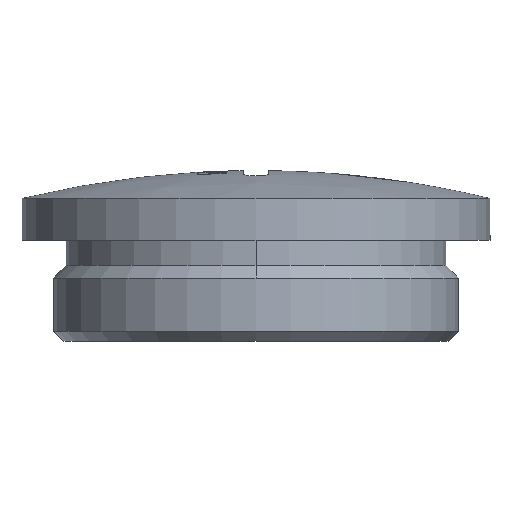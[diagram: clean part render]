
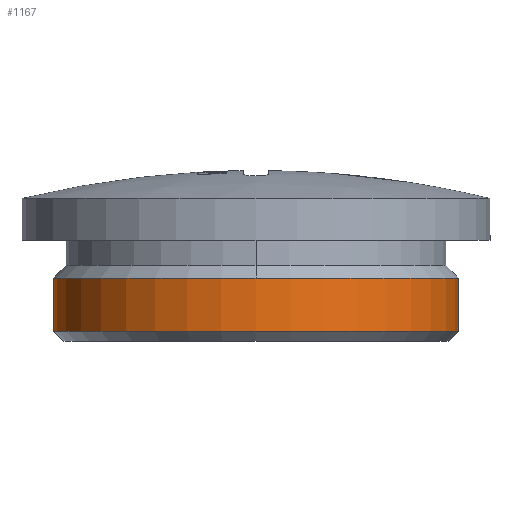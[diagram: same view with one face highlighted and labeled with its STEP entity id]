
A CAD part, left-side view. The second image highlights one B-rep face of the part: STEP entity #1167.
In plain terms, the highlighted cylindrical face has radius 16 mm (diameter 32 mm), a partial arc.
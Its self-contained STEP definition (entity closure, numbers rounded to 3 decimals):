
#1126 = ORIENTED_EDGE ( 'NONE', *, *, #1127, .T. ) ;
#1127 = EDGE_CURVE ( 'NONE', #7499, #5714, #5100, .T. ) ;
#1128 = ORIENTED_EDGE ( 'NONE', *, *, #5708, .T. ) ;
#1129 = ORIENTED_EDGE ( 'NONE', *, *, #5658, .T. ) ;
#1130 = ORIENTED_EDGE ( 'NONE', *, *, #1131, .F. ) ;
#1131 = EDGE_CURVE ( 'NONE', #7477, #7502, #5095, .T. ) ;
#1167 = ADVANCED_FACE ( 'NONE', ( #5195 ), #5194, .T. ) ;
#1168 = EDGE_LOOP ( 'NONE', ( #1169, #1126, #1128, #1129, #1130 ) ) ;
#1169 = ORIENTED_EDGE ( 'NONE', *, *, #5663, .F. ) ;
#5091 = DIRECTION ( 'NONE',  ( 0., 1., 0. ) ) ;
#5092 = DIRECTION ( 'NONE',  ( 0., 0., -1. ) ) ;
#5093 = CARTESIAN_POINT ( 'NONE',  ( 0., 0., 0.8 ) ) ;
#5094 = AXIS2_PLACEMENT_3D ( 'NONE', #5093, #5092, #5091 ) ;
#5095 = CIRCLE ( 'NONE', #5094, 16. ) ;
#5096 = DIRECTION ( 'NONE',  ( -1., 0., 0. ) ) ;
#5097 = DIRECTION ( 'NONE',  ( 0., 0., -1. ) ) ;
#5098 = CARTESIAN_POINT ( 'NONE',  ( 0., 0., 5. ) ) ;
#5099 = AXIS2_PLACEMENT_3D ( 'NONE', #5098, #5097, #5096 ) ;
#5100 = CIRCLE ( 'NONE', #5099, 16. ) ;
#5189 = DIRECTION ( 'NONE',  ( 0., 1., 0. ) ) ;
#5190 = DIRECTION ( 'NONE',  ( 0., 0., -1. ) ) ;
#5191 = CARTESIAN_POINT ( 'NONE',  ( 0., 0., 0. ) ) ;
#5192 = AXIS2_PLACEMENT_3D ( 'NONE', #5191, #5190, #5189 ) ;
#5194 = CYLINDRICAL_SURFACE ( 'NONE', #5192, 16. ) ;
#5195 = FACE_OUTER_BOUND ( 'NONE', #1168, .T. ) ;
#5654 = VERTEX_POINT ( 'NONE', #7000 ) ;
#5658 = EDGE_CURVE ( 'NONE', #5654, #7502, #6999, .T. ) ;
#5663 = EDGE_CURVE ( 'NONE', #7499, #7477, #6989, .T. ) ;
#5708 = EDGE_CURVE ( 'NONE', #5714, #5654, #7089, .T. ) ;
#5714 = VERTEX_POINT ( 'NONE', #7130 ) ;
#6986 = DIRECTION ( 'NONE',  ( 0., 0., -1. ) ) ;
#6987 = VECTOR ( 'NONE', #6986, 1000. ) ;
#6988 = CARTESIAN_POINT ( 'NONE',  ( 0., -16., 0. ) ) ;
#6989 = LINE ( 'NONE', #6988, #6987 ) ;
#6996 = DIRECTION ( 'NONE',  ( 0., 0., -1. ) ) ;
#6997 = VECTOR ( 'NONE', #6996, 1000. ) ;
#6998 = CARTESIAN_POINT ( 'NONE',  ( 0., 16., 0. ) ) ;
#6999 = LINE ( 'NONE', #6998, #6997 ) ;
#7000 = CARTESIAN_POINT ( 'NONE',  ( 0., 16., 5. ) ) ;
#7085 = DIRECTION ( 'NONE',  ( -1., 0., 0. ) ) ;
#7086 = DIRECTION ( 'NONE',  ( 0., 0., -1. ) ) ;
#7087 = CARTESIAN_POINT ( 'NONE',  ( 0., 0., 5. ) ) ;
#7088 = AXIS2_PLACEMENT_3D ( 'NONE', #7087, #7086, #7085 ) ;
#7089 = CIRCLE ( 'NONE', #7088, 16. ) ;
#7130 = CARTESIAN_POINT ( 'NONE',  ( -16., 0., 5. ) ) ;
#7151 = CARTESIAN_POINT ( 'NONE',  ( 0., -16., 0.8 ) ) ;
#7223 = CARTESIAN_POINT ( 'NONE',  ( 0., 16., 0.8 ) ) ;
#7225 = CARTESIAN_POINT ( 'NONE',  ( 0., -16., 5. ) ) ;
#7477 = VERTEX_POINT ( 'NONE', #7151 ) ;
#7499 = VERTEX_POINT ( 'NONE', #7225 ) ;
#7502 = VERTEX_POINT ( 'NONE', #7223 ) ;
